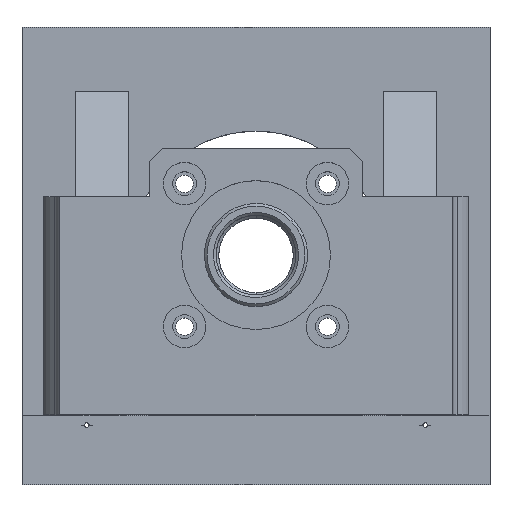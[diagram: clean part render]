
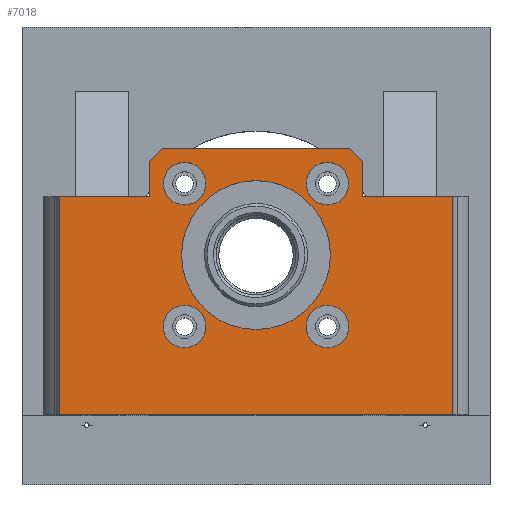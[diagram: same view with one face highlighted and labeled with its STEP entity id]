
A CAD part, top view. The second image highlights one B-rep face of the part: STEP entity #7018.
In plain terms, the highlighted planar face has unit normal (0, 0, 1).
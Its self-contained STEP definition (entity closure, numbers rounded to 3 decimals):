
#4884=CARTESIAN_POINT('',(13.435,13.435,153.));
#4885=DIRECTION('',(0.,0.,-1.));
#4886=DIRECTION('',(1.,0.,0.));
#4887=AXIS2_PLACEMENT_3D('',#4884,#4885,#4886);
#4889=CARTESIAN_POINT('',(13.435,13.435,153.));
#4890=DIRECTION('',(0.,0.,-1.));
#4891=DIRECTION('',(-1.,0.,0.));
#4892=AXIS2_PLACEMENT_3D('',#4889,#4890,#4891);
#4894=CARTESIAN_POINT('',(13.435,-13.435,153.));
#4895=DIRECTION('',(0.,0.,-1.));
#4896=DIRECTION('',(1.,0.,0.));
#4897=AXIS2_PLACEMENT_3D('',#4894,#4895,#4896);
#4899=CARTESIAN_POINT('',(13.435,-13.435,153.));
#4900=DIRECTION('',(0.,0.,-1.));
#4901=DIRECTION('',(-1.,0.,0.));
#4902=AXIS2_PLACEMENT_3D('',#4899,#4900,#4901);
#4904=CARTESIAN_POINT('',(-13.435,-13.435,153.));
#4905=DIRECTION('',(0.,0.,-1.));
#4906=DIRECTION('',(1.,0.,0.));
#4907=AXIS2_PLACEMENT_3D('',#4904,#4905,#4906);
#4909=CARTESIAN_POINT('',(-13.435,-13.435,153.));
#4910=DIRECTION('',(0.,0.,-1.));
#4911=DIRECTION('',(-1.,0.,0.));
#4912=AXIS2_PLACEMENT_3D('',#4909,#4910,#4911);
#4914=CARTESIAN_POINT('',(-13.435,13.435,153.));
#4915=DIRECTION('',(0.,0.,-1.));
#4916=DIRECTION('',(1.,0.,0.));
#4917=AXIS2_PLACEMENT_3D('',#4914,#4915,#4916);
#4919=CARTESIAN_POINT('',(-13.435,13.435,153.));
#4920=DIRECTION('',(0.,0.,-1.));
#4921=DIRECTION('',(-1.,0.,0.));
#4922=AXIS2_PLACEMENT_3D('',#4919,#4920,#4921);
#4924=CARTESIAN_POINT('',(0.,0.,153.));
#4925=DIRECTION('',(0.,0.,-1.));
#4926=DIRECTION('',(1.,0.,0.));
#4927=AXIS2_PLACEMENT_3D('',#4924,#4925,#4926);
#4929=CARTESIAN_POINT('',(0.,0.,153.));
#4930=DIRECTION('',(0.,0.,-1.));
#4931=DIRECTION('',(-1.,0.,0.));
#4932=AXIS2_PLACEMENT_3D('',#4929,#4930,#4931);
#4934=DIRECTION('',(0.,1.,0.));
#4935=VECTOR('',#4934,6.5);
#4936=CARTESIAN_POINT('',(20.,11.,153.));
#4937=LINE('',#4936,#4935);
#4938=DIRECTION('',(-1.,0.,0.));
#4939=VECTOR('',#4938,17.);
#4940=CARTESIAN_POINT('',(37.,11.,153.));
#4941=LINE('',#4940,#4939);
#4942=DIRECTION('',(0.,1.,0.));
#4943=VECTOR('',#4942,41.);
#4944=CARTESIAN_POINT('',(37.,-30.,153.));
#4945=LINE('',#4944,#4943);
#4946=DIRECTION('',(-1.,0.,0.));
#4947=VECTOR('',#4946,17.);
#4948=CARTESIAN_POINT('',(-20.,11.,153.));
#4949=LINE('',#4948,#4947);
#4950=DIRECTION('',(-0.707,-0.707,0.));
#4951=VECTOR('',#4950,3.536);
#4952=CARTESIAN_POINT('',(-17.5,20.,153.));
#4953=LINE('',#4952,#4951);
#4954=DIRECTION('',(-1.,0.,0.));
#4955=VECTOR('',#4954,35.);
#4956=CARTESIAN_POINT('',(17.5,20.,153.));
#4957=LINE('',#4956,#4955);
#4958=DIRECTION('',(-0.707,0.707,0.));
#4959=VECTOR('',#4958,3.536);
#4960=CARTESIAN_POINT('',(20.,17.5,153.));
#4961=LINE('',#4960,#4959);
#5166=DIRECTION('',(0.,1.,0.));
#5167=VECTOR('',#5166,6.5);
#5168=CARTESIAN_POINT('',(-20.,11.,153.));
#5169=LINE('',#5168,#5167);
#5272=DIRECTION('',(0.,1.,0.));
#5273=VECTOR('',#5272,41.);
#5274=CARTESIAN_POINT('',(-37.,-30.,153.));
#5275=LINE('',#5274,#5273);
#5364=DIRECTION('',(-1.,0.,0.));
#5365=VECTOR('',#5364,74.);
#5366=CARTESIAN_POINT('',(37.,-30.,153.));
#5367=LINE('',#5366,#5365);
#6463=CARTESIAN_POINT('',(-20.,11.,153.));
#6465=VERTEX_POINT('',#6463);
#6493=CARTESIAN_POINT('',(-37.,11.,153.));
#6494=VERTEX_POINT('',#6493);
#6513=CARTESIAN_POINT('',(20.,11.,153.));
#6514=VERTEX_POINT('',#6513);
#6515=CARTESIAN_POINT('',(37.,11.,153.));
#6516=VERTEX_POINT('',#6515);
#6527=CARTESIAN_POINT('',(20.,17.5,153.));
#6528=VERTEX_POINT('',#6527);
#6531=CARTESIAN_POINT('',(17.5,20.,153.));
#6532=VERTEX_POINT('',#6531);
#6535=CARTESIAN_POINT('',(-17.5,20.,153.));
#6536=VERTEX_POINT('',#6535);
#6543=CARTESIAN_POINT('',(-20.,17.5,153.));
#6544=VERTEX_POINT('',#6543);
#6549=CARTESIAN_POINT('',(-37.,-30.,153.));
#6550=VERTEX_POINT('',#6549);
#6571=CARTESIAN_POINT('',(37.,-30.,153.));
#6572=VERTEX_POINT('',#6571);
#6609=CARTESIAN_POINT('',(-14.,0.,153.));
#6610=CARTESIAN_POINT('',(14.,0.,153.));
#6611=VERTEX_POINT('',#6609);
#6612=VERTEX_POINT('',#6610);
#6614=CARTESIAN_POINT('',(-9.435,-13.435,153.));
#6616=VERTEX_POINT('',#6614);
#6618=CARTESIAN_POINT('',(-17.435,-13.435,153.));
#6620=VERTEX_POINT('',#6618);
#6622=CARTESIAN_POINT('',(17.435,-13.435,153.));
#6624=VERTEX_POINT('',#6622);
#6626=CARTESIAN_POINT('',(9.435,-13.435,153.));
#6628=VERTEX_POINT('',#6626);
#6630=CARTESIAN_POINT('',(17.435,13.435,153.));
#6632=VERTEX_POINT('',#6630);
#6634=CARTESIAN_POINT('',(9.435,13.435,153.));
#6636=VERTEX_POINT('',#6634);
#6638=CARTESIAN_POINT('',(-17.435,13.435,153.));
#6640=VERTEX_POINT('',#6638);
#6642=CARTESIAN_POINT('',(-9.435,13.435,153.));
#6644=VERTEX_POINT('',#6642);
#6963=CARTESIAN_POINT('',(0.,-74.607,153.));
#6964=DIRECTION('',(0.,0.,1.));
#6965=DIRECTION('',(-1.,0.,0.));
#6966=AXIS2_PLACEMENT_3D('',#6963,#6964,#6965);
#6967=PLANE('',#6966);
#6969=ORIENTED_EDGE('',*,*,#6968,.F.);
#6971=ORIENTED_EDGE('',*,*,#6970,.F.);
#6973=ORIENTED_EDGE('',*,*,#6972,.F.);
#6975=ORIENTED_EDGE('',*,*,#6974,.T.);
#6977=ORIENTED_EDGE('',*,*,#6976,.T.);
#6979=ORIENTED_EDGE('',*,*,#6978,.F.);
#6981=ORIENTED_EDGE('',*,*,#6980,.T.);
#6983=ORIENTED_EDGE('',*,*,#6982,.F.);
#6985=ORIENTED_EDGE('',*,*,#6984,.F.);
#6987=ORIENTED_EDGE('',*,*,#6986,.F.);
#6988=EDGE_LOOP('',(#6969,#6971,#6973,#6975,#6977,#6979,#6981,#6983,#6985,
#6987));
#6989=FACE_OUTER_BOUND('',#6988,.F.);
#6991=ORIENTED_EDGE('',*,*,#6990,.F.);
#6993=ORIENTED_EDGE('',*,*,#6992,.F.);
#6994=EDGE_LOOP('',(#6991,#6993));
#6995=FACE_BOUND('',#6994,.F.);
#6997=ORIENTED_EDGE('',*,*,#6996,.F.);
#6999=ORIENTED_EDGE('',*,*,#6998,.F.);
#7000=EDGE_LOOP('',(#6997,#6999));
#7001=FACE_BOUND('',#7000,.F.);
#7002=ORIENTED_EDGE('',*,*,#6957,.F.);
#7003=ORIENTED_EDGE('',*,*,#6943,.F.);
#7004=EDGE_LOOP('',(#7002,#7003));
#7005=FACE_BOUND('',#7004,.F.);
#7007=ORIENTED_EDGE('',*,*,#7006,.F.);
#7009=ORIENTED_EDGE('',*,*,#7008,.F.);
#7010=EDGE_LOOP('',(#7007,#7009));
#7011=FACE_BOUND('',#7010,.F.);
#7013=ORIENTED_EDGE('',*,*,#7012,.F.);
#7015=ORIENTED_EDGE('',*,*,#7014,.F.);
#7016=EDGE_LOOP('',(#7013,#7015));
#7017=FACE_BOUND('',#7016,.F.);
#4888=CIRCLE('',#4887,4.);
#4893=CIRCLE('',#4892,4.);
#4898=CIRCLE('',#4897,4.);
#4903=CIRCLE('',#4902,4.);
#4908=CIRCLE('',#4907,4.);
#4913=CIRCLE('',#4912,4.);
#4918=CIRCLE('',#4917,4.);
#4923=CIRCLE('',#4922,4.);
#4928=CIRCLE('',#4927,14.);
#4933=CIRCLE('',#4932,14.);
#6943=EDGE_CURVE('',#6640,#6644,#4923,.T.);
#6957=EDGE_CURVE('',#6644,#6640,#4918,.T.);
#6968=EDGE_CURVE('',#6514,#6528,#4937,.T.);
#6970=EDGE_CURVE('',#6516,#6514,#4941,.T.);
#6972=EDGE_CURVE('',#6572,#6516,#4945,.T.);
#6974=EDGE_CURVE('',#6572,#6550,#5367,.T.);
#6976=EDGE_CURVE('',#6550,#6494,#5275,.T.);
#6978=EDGE_CURVE('',#6465,#6494,#4949,.T.);
#6980=EDGE_CURVE('',#6465,#6544,#5169,.T.);
#6982=EDGE_CURVE('',#6536,#6544,#4953,.T.);
#6984=EDGE_CURVE('',#6532,#6536,#4957,.T.);
#6986=EDGE_CURVE('',#6528,#6532,#4961,.T.);
#6990=EDGE_CURVE('',#6624,#6628,#4898,.T.);
#6992=EDGE_CURVE('',#6628,#6624,#4903,.T.);
#6996=EDGE_CURVE('',#6616,#6620,#4908,.T.);
#6998=EDGE_CURVE('',#6620,#6616,#4913,.T.);
#7006=EDGE_CURVE('',#6612,#6611,#4928,.T.);
#7008=EDGE_CURVE('',#6611,#6612,#4933,.T.);
#7012=EDGE_CURVE('',#6632,#6636,#4888,.T.);
#7014=EDGE_CURVE('',#6636,#6632,#4893,.T.);
#7018=ADVANCED_FACE('',(#6989,#6995,#7001,#7005,#7011,#7017),#6967,.T.);
